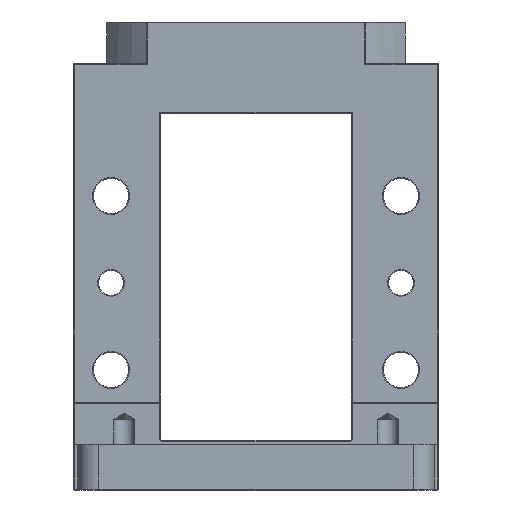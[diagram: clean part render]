
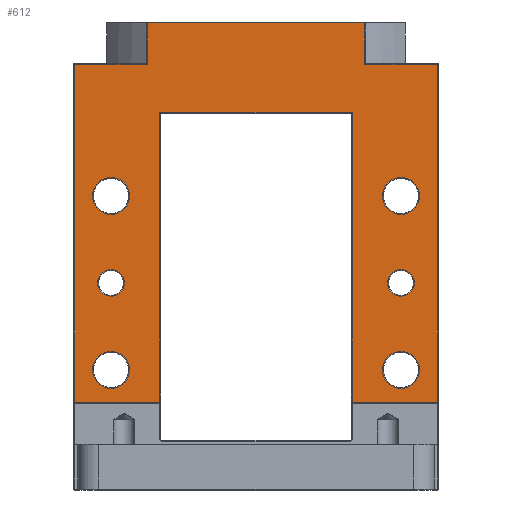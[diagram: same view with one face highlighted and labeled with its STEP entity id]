
A CAD part, front view. The second image highlights one B-rep face of the part: STEP entity #612.
In plain terms, the highlighted planar face has unit normal (0, -1, 0).
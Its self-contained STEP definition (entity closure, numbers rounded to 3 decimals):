
#612=ADVANCED_FACE('',(#1271,#1272,#1273,#1274,#1275,#1276,#1277),#871,
 .F.);
#871=PLANE('',#5409);
#1010=CIRCLE('',#5323,3.2);
#1011=CIRCLE('',#5325,3.2);
#1013=CIRCLE('',#5328,4.45);
#1015=CIRCLE('',#5331,4.45);
#1017=CIRCLE('',#5334,4.45);
#1019=CIRCLE('',#5337,4.45);
#1271=FACE_BOUND('',#1444,.T.);
#1272=FACE_BOUND('',#1445,.T.);
#1273=FACE_BOUND('',#1446,.T.);
#1274=FACE_BOUND('',#1447,.T.);
#1275=FACE_BOUND('',#1448,.T.);
#1276=FACE_BOUND('',#1449,.T.);
#1277=FACE_BOUND('',#1450,.T.);
#1444=EDGE_LOOP('',(#2212));
#1445=EDGE_LOOP('',(#2213));
#1446=EDGE_LOOP('',(#2214));
#1447=EDGE_LOOP('',(#2215));
#1448=EDGE_LOOP('',(#2216));
#1449=EDGE_LOOP('',(#2217));
#1450=EDGE_LOOP('',(#2218,#2219,#2220,#2221,#2222,#2223,#2224,#2225,#2226,
#2227,#2228,#2229));
#2212=ORIENTED_EDGE('',*,*,#4018,.T.);
#2213=ORIENTED_EDGE('',*,*,#4016,.T.);
#2214=ORIENTED_EDGE('',*,*,#4014,.T.);
#2215=ORIENTED_EDGE('',*,*,#4012,.T.);
#2216=ORIENTED_EDGE('',*,*,#4010,.T.);
#2217=ORIENTED_EDGE('',*,*,#4009,.T.);
#2218=ORIENTED_EDGE('',*,*,#4081,.T.);
#2219=ORIENTED_EDGE('',*,*,#4082,.T.);
#2220=ORIENTED_EDGE('',*,*,#4083,.T.);
#2221=ORIENTED_EDGE('',*,*,#4084,.T.);
#2222=ORIENTED_EDGE('',*,*,#4085,.T.);
#2223=ORIENTED_EDGE('',*,*,#4086,.T.);
#2224=ORIENTED_EDGE('',*,*,#4087,.T.);
#2225=ORIENTED_EDGE('',*,*,#4088,.T.);
#2226=ORIENTED_EDGE('',*,*,#4089,.T.);
#2227=ORIENTED_EDGE('',*,*,#4090,.T.);
#2228=ORIENTED_EDGE('',*,*,#4091,.T.);
#2229=ORIENTED_EDGE('',*,*,#4092,.T.);
#3531=VERTEX_POINT('',#7132);
#3532=VERTEX_POINT('',#7135);
#3534=VERTEX_POINT('',#7140);
#3536=VERTEX_POINT('',#7145);
#3538=VERTEX_POINT('',#7150);
#3540=VERTEX_POINT('',#7155);
#3605=VERTEX_POINT('',#7392);
#3606=VERTEX_POINT('',#7393);
#3607=VERTEX_POINT('',#7395);
#3608=VERTEX_POINT('',#7397);
#3609=VERTEX_POINT('',#7399);
#3610=VERTEX_POINT('',#7401);
#3611=VERTEX_POINT('',#7403);
#3612=VERTEX_POINT('',#7405);
#3613=VERTEX_POINT('',#7407);
#3614=VERTEX_POINT('',#7409);
#3615=VERTEX_POINT('',#7411);
#3616=VERTEX_POINT('',#7413);
#4009=EDGE_CURVE('',#3531,#3531,#1010,.T.);
#4010=EDGE_CURVE('',#3532,#3532,#1011,.T.);
#4012=EDGE_CURVE('',#3534,#3534,#1013,.T.);
#4014=EDGE_CURVE('',#3536,#3536,#1015,.T.);
#4016=EDGE_CURVE('',#3538,#3538,#1017,.T.);
#4018=EDGE_CURVE('',#3540,#3540,#1019,.T.);
#4081=EDGE_CURVE('',#3605,#3606,#4707,.T.);
#4082=EDGE_CURVE('',#3606,#3607,#4708,.T.);
#4083=EDGE_CURVE('',#3607,#3608,#4709,.T.);
#4084=EDGE_CURVE('',#3608,#3609,#4710,.T.);
#4085=EDGE_CURVE('',#3609,#3610,#4711,.T.);
#4086=EDGE_CURVE('',#3610,#3611,#4712,.T.);
#4087=EDGE_CURVE('',#3611,#3612,#4713,.T.);
#4088=EDGE_CURVE('',#3612,#3613,#4714,.T.);
#4089=EDGE_CURVE('',#3613,#3614,#4715,.T.);
#4090=EDGE_CURVE('',#3614,#3615,#4716,.T.);
#4091=EDGE_CURVE('',#3615,#3616,#4717,.T.);
#4092=EDGE_CURVE('',#3616,#3605,#4718,.T.);
#4707=LINE('',#7391,#4992);
#4708=LINE('',#7394,#4993);
#4709=LINE('',#7396,#4994);
#4710=LINE('',#7398,#4995);
#4711=LINE('',#7400,#4996);
#4712=LINE('',#7402,#4997);
#4713=LINE('',#7404,#4998);
#4714=LINE('',#7406,#4999);
#4715=LINE('',#7408,#5000);
#4716=LINE('',#7410,#5001);
#4717=LINE('',#7412,#5002);
#4718=LINE('',#7414,#5003);
#4992=VECTOR('',#6052,1.);
#4993=VECTOR('',#6053,1.);
#4994=VECTOR('',#6054,1.);
#4995=VECTOR('',#6055,1.);
#4996=VECTOR('',#6056,1.);
#4997=VECTOR('',#6057,1.);
#4998=VECTOR('',#6058,1.);
#4999=VECTOR('',#6059,1.);
#5000=VECTOR('',#6060,1.);
#5001=VECTOR('',#6061,1.);
#5002=VECTOR('',#6062,1.);
#5003=VECTOR('',#6063,1.);
#5323=AXIS2_PLACEMENT_3D('',#7131,#5856,#5857);
#5325=AXIS2_PLACEMENT_3D('',#7134,#5860,#5861);
#5328=AXIS2_PLACEMENT_3D('',#7139,#5866,#5867);
#5331=AXIS2_PLACEMENT_3D('',#7144,#5872,#5873);
#5334=AXIS2_PLACEMENT_3D('',#7149,#5878,#5879);
#5337=AXIS2_PLACEMENT_3D('',#7154,#5884,#5885);
#5409=AXIS2_PLACEMENT_3D('',#7415,#6064,#6065);
#5856=DIRECTION('',(0.,1.,0.));
#5857=DIRECTION('',(0.,0.,1.));
#5860=DIRECTION('',(0.,1.,0.));
#5861=DIRECTION('',(0.,0.,1.));
#5866=DIRECTION('',(0.,1.,0.));
#5867=DIRECTION('',(0.,0.,1.));
#5872=DIRECTION('',(0.,1.,0.));
#5873=DIRECTION('',(0.,0.,1.));
#5878=DIRECTION('',(0.,1.,0.));
#5879=DIRECTION('',(0.,0.,1.));
#5884=DIRECTION('',(0.,1.,0.));
#5885=DIRECTION('',(0.,0.,1.));
#6052=DIRECTION('',(1.,0.,0.));
#6053=DIRECTION('',(0.,0.,1.));
#6054=DIRECTION('',(-1.,0.,0.));
#6055=DIRECTION('',(0.,0.,1.));
#6056=DIRECTION('',(-1.,0.,0.));
#6057=DIRECTION('',(0.,0.,-1.));
#6058=DIRECTION('',(-1.,0.,0.));
#6059=DIRECTION('',(0.,0.,-1.));
#6060=DIRECTION('',(1.,0.,0.));
#6061=DIRECTION('',(0.,0.,1.));
#6062=DIRECTION('',(1.,0.,0.));
#6063=DIRECTION('',(0.,0.,-1.));
#6064=DIRECTION('',(0.,1.,0.));
#6065=DIRECTION('',(0.,0.,-1.));
#7131=CARTESIAN_POINT('',(-35.,-34.,44.));
#7132=CARTESIAN_POINT('',(-35.,-34.,47.2));
#7134=CARTESIAN_POINT('',(35.,-34.,44.));
#7135=CARTESIAN_POINT('',(35.,-34.,47.2));
#7139=CARTESIAN_POINT('',(-35.,-34.,23.));
#7140=CARTESIAN_POINT('',(-35.,-34.,27.45));
#7144=CARTESIAN_POINT('',(35.,-34.,23.));
#7145=CARTESIAN_POINT('',(35.,-34.,27.45));
#7149=CARTESIAN_POINT('',(35.,-34.,65.));
#7150=CARTESIAN_POINT('',(35.,-34.,69.45));
#7154=CARTESIAN_POINT('',(-35.,-34.,65.));
#7155=CARTESIAN_POINT('',(-35.,-34.,69.45));
#7391=CARTESIAN_POINT('',(43.,-34.,15.2));
#7392=CARTESIAN_POINT('',(23.2,-34.,15.2));
#7393=CARTESIAN_POINT('',(43.8,-34.,15.2));
#7394=CARTESIAN_POINT('',(43.8,-34.,97.));
#7395=CARTESIAN_POINT('',(43.8,-34.,96.8));
#7396=CARTESIAN_POINT('',(26.325,-34.,96.8));
#7397=CARTESIAN_POINT('',(26.256,-34.,96.8));
#7398=CARTESIAN_POINT('',(26.256,-34.,107.));
#7399=CARTESIAN_POINT('',(26.256,-34.,106.8));
#7400=CARTESIAN_POINT('',(-26.325,-34.,106.8));
#7401=CARTESIAN_POINT('',(-26.256,-34.,106.8));
#7402=CARTESIAN_POINT('',(-26.256,-34.,97.));
#7403=CARTESIAN_POINT('',(-26.256,-34.,96.8));
#7404=CARTESIAN_POINT('',(-44.,-34.,96.8));
#7405=CARTESIAN_POINT('',(-43.8,-34.,96.8));
#7406=CARTESIAN_POINT('',(-43.8,-34.,97.));
#7407=CARTESIAN_POINT('',(-43.8,-34.,15.2));
#7408=CARTESIAN_POINT('',(43.,-34.,15.2));
#7409=CARTESIAN_POINT('',(-23.2,-34.,15.2));
#7410=CARTESIAN_POINT('',(-23.2,-34.,97.));
#7411=CARTESIAN_POINT('',(-23.2,-34.,85.2));
#7412=CARTESIAN_POINT('',(23.,-34.,85.2));
#7413=CARTESIAN_POINT('',(23.2,-34.,85.2));
#7414=CARTESIAN_POINT('',(23.2,-34.,15.));
#7415=CARTESIAN_POINT('',(43.,-34.,97.));
